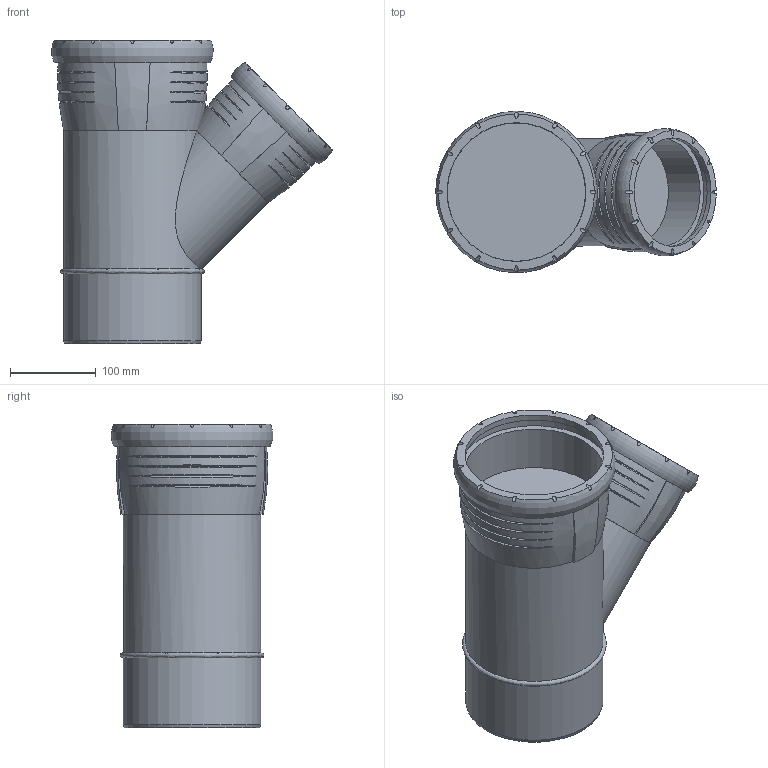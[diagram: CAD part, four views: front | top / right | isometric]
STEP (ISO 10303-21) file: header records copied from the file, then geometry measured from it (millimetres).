
FILE_DESCRIPTION(/* description */ (''),/* implementation_level */ '2;1');
FILE_NAME(/* name */ 'H:\Geberit-Teile\Export\Abzweig PP\stp\393736.stp',/* time_stamp */ '2017-02-13T13:21:28+01:00',/* author */ ('seihe2'),/* organization */ (''),/* preprocessor_version */ 'ST-DEVELOPER v15.2',/* originating_system */ 'Autodesk Inventor 2014',/* authorisation */ '');
FILE_SCHEMA (('AUTOMOTIVE_DESIGN { 1 0 10303 214 3 1 1 }'));
Length unit declared in the file: millimetre
Products named in the file (1): 393736
Bounding box: 326.88 x 188.24 x 354 mm (x, y, z)
Volume: 6288634.8 mm3; surface area: 518510.3 mm2
Topology: 5 solids, 5 shells, 107 faces, 249 edges, 176 vertices
Faces by surface type: bspline 45, cylinder 40, plane 19, torus 2, cone 1
Full cylindrical faces by diameter (mm): 95.978 x1, 126 x1, 126.4 x1, 126.565 x1, 138.1 x1, 148.25 x1, 160.25 x3, 161.2 x1, 161.7 x1, 174.9 x1
Entity records: 7680 total; most frequent: CARTESIAN_POINT 5507, ORIENTED_EDGE 450, DIRECTION 325, EDGE_CURVE 224, VERTEX_POINT 167, AXIS2_PLACEMENT_3D 162, EDGE_LOOP 149, B_SPLINE_CURVE_WITH_KNOTS 123
